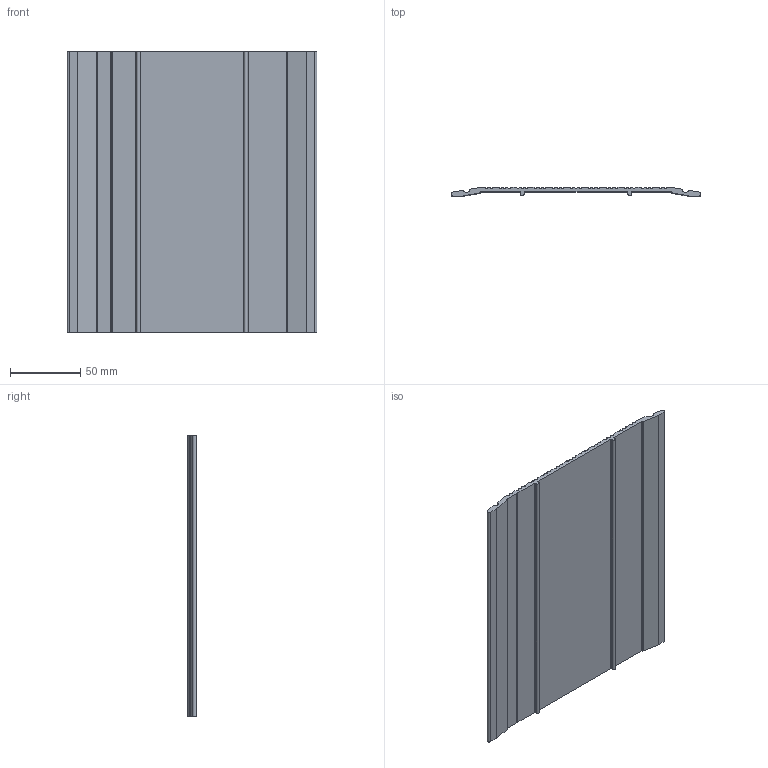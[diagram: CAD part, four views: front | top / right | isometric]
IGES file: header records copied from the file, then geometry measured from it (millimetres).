
Global section: file name: No Iges File Name specified; native system: Autodesk Inventor 2012; preprocessor: AutoDesk Inventor Iges Exporter R2012; author: anna.b; date: 20130614.100901; units: millimetre
Bounding box: 177.8 x 6.35 x 200 mm (x, y, z)
Volume: 106118 mm3; surface area: 80102.1 mm2
Topology: 1 solids, 1 shells, 168 faces, 498 edges, 332 vertices
Faces by surface type: cylinder 76, plane 53, revolution 39
